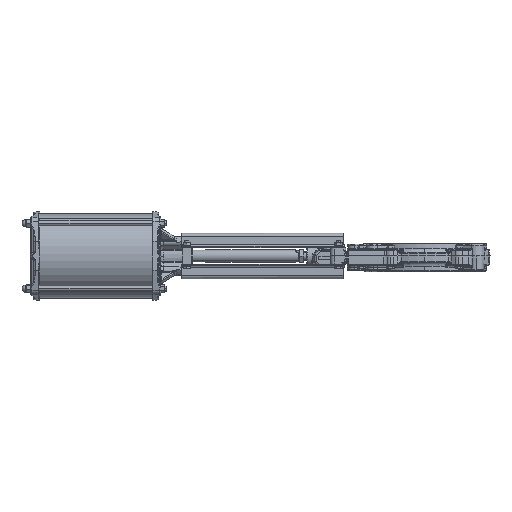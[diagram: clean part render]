
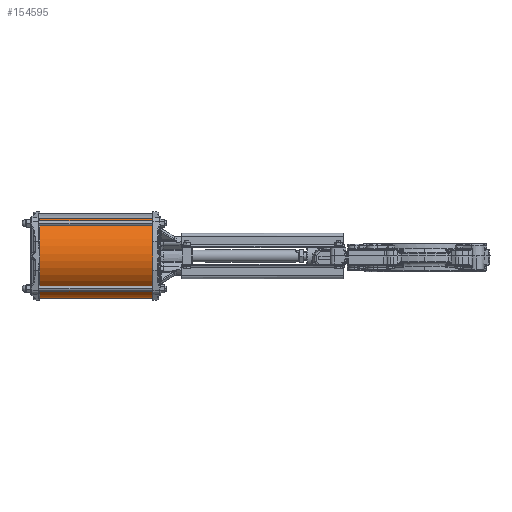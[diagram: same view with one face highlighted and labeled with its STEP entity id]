
A CAD part, left-side view. The second image highlights one B-rep face of the part: STEP entity #154595.
In plain terms, the highlighted cylindrical face has radius 105 mm (diameter 210 mm), a partial arc.
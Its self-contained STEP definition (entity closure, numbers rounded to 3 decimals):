
#5412 = EDGE_LOOP ( 'NONE', ( #156703, #68760, #115995, #86348 ) ) ;
#13421 = LINE ( 'NONE', #15287, #187119 ) ;
#14278 = CARTESIAN_POINT ( 'NONE',  ( 0., 783.667, -0.25 ) ) ;
#15287 = CARTESIAN_POINT ( 'NONE',  ( -47.379, 783.667, 93.453 ) ) ;
#21905 = DIRECTION ( 'NONE',  ( 0., -1., 0. ) ) ;
#23947 = DIRECTION ( 'NONE',  ( 0., 1., 0. ) ) ;
#24377 = EDGE_CURVE ( 'NONE', #210565, #47701, #13421, .T. ) ;
#30476 = CIRCLE ( 'NONE', #182824, 105. ) ;
#31048 = DIRECTION ( 'NONE',  ( 0., -1., 0. ) ) ;
#31353 = DIRECTION ( 'NONE',  ( 0., -1., 0. ) ) ;
#37995 = AXIS2_PLACEMENT_3D ( 'NONE', #14278, #31048, #216485 ) ;
#45119 = CARTESIAN_POINT ( 'NONE',  ( 47.379, 962.5, -93.953 ) ) ;
#47701 = VERTEX_POINT ( 'NONE', #189759 ) ;
#48465 = CARTESIAN_POINT ( 'NONE',  ( 47.379, 783.667, -93.953 ) ) ;
#68760 = ORIENTED_EDGE ( 'NONE', *, *, #100425, .F. ) ;
#78148 = CARTESIAN_POINT ( 'NONE',  ( -47.379, 962.5, 93.453 ) ) ;
#86348 = ORIENTED_EDGE ( 'NONE', *, *, #117884, .F. ) ;
#86727 = LINE ( 'NONE', #48465, #215772 ) ;
#100425 = EDGE_CURVE ( 'NONE', #198488, #210565, #30476, .T. ) ;
#103682 = AXIS2_PLACEMENT_3D ( 'NONE', #122557, #21905, #139541 ) ;
#115995 = ORIENTED_EDGE ( 'NONE', *, *, #186651, .T. ) ;
#117884 = EDGE_CURVE ( 'NONE', #47701, #198150, #162009, .T. ) ;
#122557 = CARTESIAN_POINT ( 'NONE',  ( 0., 675.5, -0.25 ) ) ;
#124688 = CARTESIAN_POINT ( 'NONE',  ( 0., 962.5, -0.25 ) ) ;
#132162 = CYLINDRICAL_SURFACE ( 'NONE', #37995, 105. ) ;
#139541 = DIRECTION ( 'NONE',  ( 0.451, 0., -0.892 ) ) ;
#141655 = DIRECTION ( 'NONE',  ( 1., 0., 0. ) ) ;
#150340 = FACE_OUTER_BOUND ( 'NONE', #5412, .T. ) ;
#154595 = ADVANCED_FACE ( 'NONE', ( #150340 ), #132162, .T. ) ;
#156703 = ORIENTED_EDGE ( 'NONE', *, *, #24377, .F. ) ;
#162009 = CIRCLE ( 'NONE', #103682, 105. ) ;
#164538 = CARTESIAN_POINT ( 'NONE',  ( 47.379, 675.5, -93.953 ) ) ;
#166226 = DIRECTION ( 'NONE',  ( 0., -1., 0. ) ) ;
#182824 = AXIS2_PLACEMENT_3D ( 'NONE', #124688, #23947, #141655 ) ;
#186651 = EDGE_CURVE ( 'NONE', #198488, #198150, #86727, .T. ) ;
#187119 = VECTOR ( 'NONE', #31353, 1000. ) ;
#189759 = CARTESIAN_POINT ( 'NONE',  ( -47.379, 675.5, 93.453 ) ) ;
#198150 = VERTEX_POINT ( 'NONE', #164538 ) ;
#198488 = VERTEX_POINT ( 'NONE', #45119 ) ;
#210565 = VERTEX_POINT ( 'NONE', #78148 ) ;
#215772 = VECTOR ( 'NONE', #166226, 1000. ) ;
#216485 = DIRECTION ( 'NONE',  ( 0.451, 0., -0.892 ) ) ;
